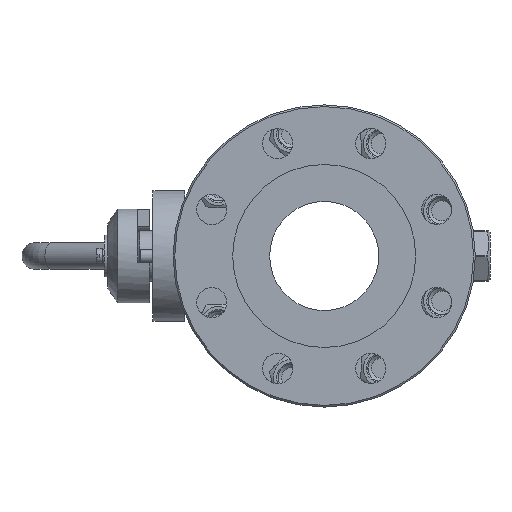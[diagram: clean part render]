
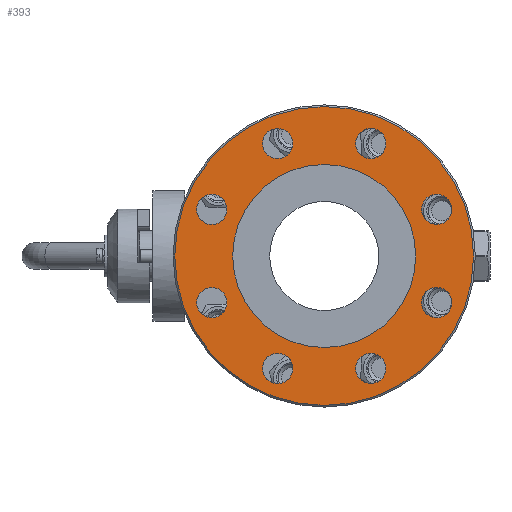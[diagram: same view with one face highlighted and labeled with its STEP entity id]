
A CAD part, left-side view. The second image highlights one B-rep face of the part: STEP entity #393.
In plain terms, the highlighted planar face has unit normal (-1, 0, 0).
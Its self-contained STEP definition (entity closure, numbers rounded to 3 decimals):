
#393=ADVANCED_FACE('',(#3728,#3730,#3732,#3734,#3736,#3738,#3740,#3742,#3744,#3746),
#3748,.T.);
#3728=FACE_BOUND('',#3729,.T.);
#3729=EDGE_LOOP('',(#6714));
#3730=FACE_BOUND('',#3731,.T.);
#3731=EDGE_LOOP('',(#6715));
#3732=FACE_BOUND('',#3733,.T.);
#3733=EDGE_LOOP('',(#6716));
#3734=FACE_BOUND('',#3735,.T.);
#3735=EDGE_LOOP('',(#6717));
#3736=FACE_BOUND('',#3737,.T.);
#3737=EDGE_LOOP('',(#6718));
#3738=FACE_BOUND('',#3739,.T.);
#3739=EDGE_LOOP('',(#6719));
#3740=FACE_BOUND('',#3741,.T.);
#3741=EDGE_LOOP('',(#6720));
#3742=FACE_BOUND('',#3743,.T.);
#3743=EDGE_LOOP('',(#6721));
#3744=FACE_BOUND('',#3745,.T.);
#3745=EDGE_LOOP('',(#6722));
#3746=FACE_OUTER_BOUND('',#3747,.T.);
#3747=EDGE_LOOP('',(#6723));
#3748=PLANE('',#3749);
#3749=AXIS2_PLACEMENT_3D('',#3750,#3751,#3752);
#3750=CARTESIAN_POINT('',(-117.5,0.,0.));
#3751=DIRECTION('',(-1.,0.,0.));
#3752=DIRECTION('',(0.,1.,0.));
#6714=ORIENTED_EDGE('',*,*,#8816,.T.);
#6715=ORIENTED_EDGE('',*,*,#8852,.T.);
#6716=ORIENTED_EDGE('',*,*,#8815,.T.);
#6717=ORIENTED_EDGE('',*,*,#8813,.T.);
#6718=ORIENTED_EDGE('',*,*,#8811,.T.);
#6719=ORIENTED_EDGE('',*,*,#8809,.T.);
#6720=ORIENTED_EDGE('',*,*,#8807,.T.);
#6721=ORIENTED_EDGE('',*,*,#8805,.T.);
#6722=ORIENTED_EDGE('',*,*,#8803,.T.);
#6723=ORIENTED_EDGE('',*,*,#8853,.F.);
#8803=EDGE_CURVE('',#10323,#10323,#10325,.F.);
#8805=EDGE_CURVE('',#10326,#10326,#10328,.F.);
#8807=EDGE_CURVE('',#10329,#10329,#10331,.F.);
#8809=EDGE_CURVE('',#10332,#10332,#10334,.F.);
#8811=EDGE_CURVE('',#10335,#10335,#10337,.F.);
#8813=EDGE_CURVE('',#10338,#10338,#10340,.F.);
#8815=EDGE_CURVE('',#10341,#10341,#10343,.F.);
#8816=EDGE_CURVE('',#10344,#10344,#10345,.F.);
#8852=EDGE_CURVE('',#10401,#10401,#10402,.T.);
#8853=EDGE_CURVE('',#10403,#10403,#10404,.T.);
#10323=VERTEX_POINT('',#21506);
#10325=CIRCLE('',#21510,9.);
#10326=VERTEX_POINT('',#21514);
#10328=CIRCLE('',#21518,9.);
#10329=VERTEX_POINT('',#21522);
#10331=CIRCLE('',#21526,9.);
#10332=VERTEX_POINT('',#21530);
#10334=CIRCLE('',#21534,9.);
#10335=VERTEX_POINT('',#21538);
#10337=CIRCLE('',#21542,9.);
#10338=VERTEX_POINT('',#21546);
#10340=CIRCLE('',#21550,9.);
#10341=VERTEX_POINT('',#21554);
#10343=CIRCLE('',#21558,9.);
#10344=VERTEX_POINT('',#21562);
#10345=CIRCLE('',#21563,9.);
#10401=VERTEX_POINT('',#21712);
#10402=CIRCLE('',#21713,54.5);
#10403=VERTEX_POINT('',#21717);
#10404=CIRCLE('',#21718,89.);
#21506=CARTESIAN_POINT('',(-117.5,-73.345,-34.109));
#21510=AXIS2_PLACEMENT_3D('',#21511,#21512,#21513);
#21511=CARTESIAN_POINT('',(-117.5,-66.981,-27.745));
#21512=DIRECTION('',(-1.,0.,0.));
#21513=DIRECTION('',(0.,-0.707,-0.707));
#21514=CARTESIAN_POINT('',(-117.5,-75.981,27.745));
#21518=AXIS2_PLACEMENT_3D('',#21519,#21520,#21521);
#21519=CARTESIAN_POINT('',(-117.5,-66.981,27.745));
#21520=DIRECTION('',(-1.,0.,0.));
#21521=DIRECTION('',(0.,-1.,-0.));
#21522=CARTESIAN_POINT('',(-117.5,-34.109,73.345));
#21526=AXIS2_PLACEMENT_3D('',#21527,#21528,#21529);
#21527=CARTESIAN_POINT('',(-117.5,-27.745,66.981));
#21528=DIRECTION('',(-1.,0.,0.));
#21529=DIRECTION('',(-0.,-0.707,0.707));
#21530=CARTESIAN_POINT('',(-117.5,27.745,75.981));
#21534=AXIS2_PLACEMENT_3D('',#21535,#21536,#21537);
#21535=CARTESIAN_POINT('',(-117.5,27.745,66.981));
#21536=DIRECTION('',(-1.,0.,0.));
#21537=DIRECTION('',(0.,0.,1.));
#21538=CARTESIAN_POINT('',(-117.5,73.345,34.109));
#21542=AXIS2_PLACEMENT_3D('',#21543,#21544,#21545);
#21543=CARTESIAN_POINT('',(-117.5,66.981,27.745));
#21544=DIRECTION('',(-1.,0.,0.));
#21545=DIRECTION('',(0.,0.707,0.707));
#21546=CARTESIAN_POINT('',(-117.5,75.981,-27.745));
#21550=AXIS2_PLACEMENT_3D('',#21551,#21552,#21553);
#21551=CARTESIAN_POINT('',(-117.5,66.981,-27.745));
#21552=DIRECTION('',(-1.,0.,0.));
#21553=DIRECTION('',(0.,1.,0.));
#21554=CARTESIAN_POINT('',(-117.5,34.109,-73.345));
#21558=AXIS2_PLACEMENT_3D('',#21559,#21560,#21561);
#21559=CARTESIAN_POINT('',(-117.5,27.745,-66.981));
#21560=DIRECTION('',(-1.,0.,0.));
#21561=DIRECTION('',(0.,0.707,-0.707));
#21562=CARTESIAN_POINT('',(-117.5,-27.745,-75.981));
#21563=AXIS2_PLACEMENT_3D('',#21564,#21565,#21566);
#21564=CARTESIAN_POINT('',(-117.5,-27.745,-66.981));
#21565=DIRECTION('',(-1.,0.,0.));
#21566=DIRECTION('',(0.,0.,-1.));
#21712=CARTESIAN_POINT('',(-117.5,54.5,0.));
#21713=AXIS2_PLACEMENT_3D('',#21714,#21715,#21716);
#21714=CARTESIAN_POINT('',(-117.5,0.,0.));
#21715=DIRECTION('',(1.,-0.,-0.));
#21716=DIRECTION('',(0.,1.,0.));
#21717=CARTESIAN_POINT('',(-117.5,89.,0.));
#21718=AXIS2_PLACEMENT_3D('',#21719,#21720,#21721);
#21719=CARTESIAN_POINT('',(-117.5,0.,0.));
#21720=DIRECTION('',(1.,-0.,-0.));
#21721=DIRECTION('',(0.,1.,0.));
